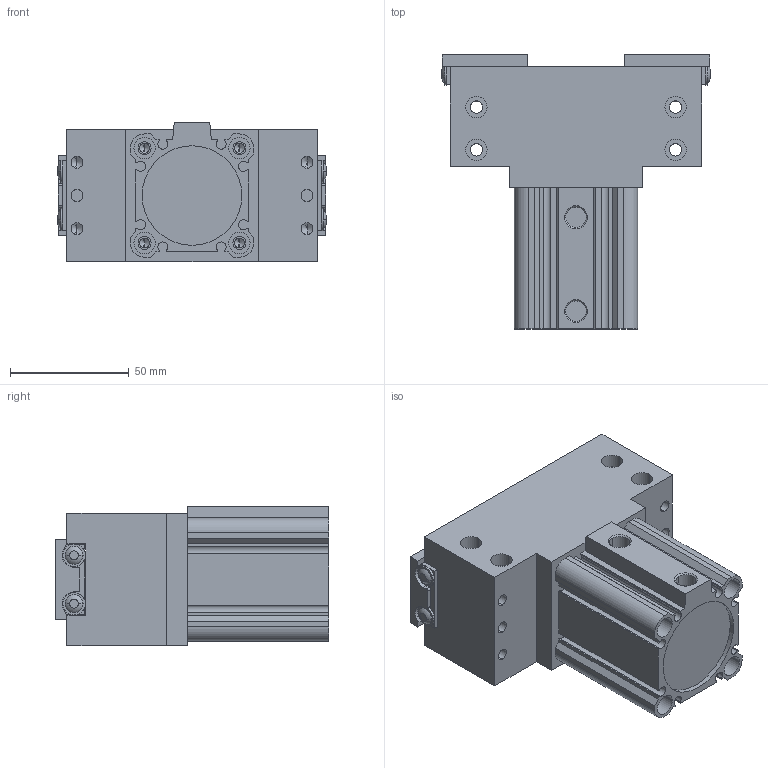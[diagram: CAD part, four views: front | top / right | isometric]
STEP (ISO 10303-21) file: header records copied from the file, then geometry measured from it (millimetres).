
FILE_DESCRIPTION (( 'STEP AP203' ), '1' );
FILE_NAME ('PPE-40-S.step', '2017-02-15T12:24:33', ( '' ), ( '' ), 'SwSTEP 2.0', 'SolidWorks 2012', '' );
FILE_SCHEMA (( 'CONFIG_CONTROL_DESIGN' ));
Length unit declared in the file: millimetre
Products named in the file (4): PPE-40-S; S-40-20; PPE40-2; PPE40S-1
Assembly tree (4 placements, depth 2):
  PPE-40-S
    PPE40S-1
    PPE40-2  x2
    S-40-20
Bounding box: 113.4 x 115.5 x 59 mm (x, y, z)
Volume: 349753.7 mm3; surface area: 81602.7 mm2
Topology: 4 solids, 4 shells, 427 faces, 1062 edges, 658 vertices
Faces by surface type: cylinder 190, plane 181, cone 40, torus 16
Entity records: 10026 total; most frequent: CARTESIAN_POINT 1814, DIRECTION 1726, ORIENTED_EDGE 1540, EDGE_CURVE 770, AXIS2_PLACEMENT_3D 646, VERTEX_POINT 498, LINE 434, VECTOR 434
